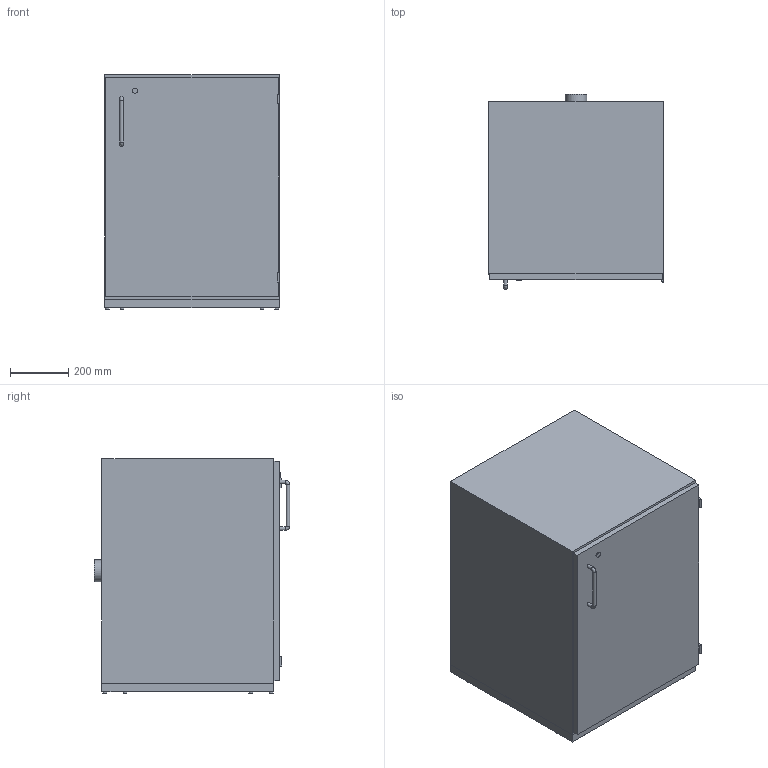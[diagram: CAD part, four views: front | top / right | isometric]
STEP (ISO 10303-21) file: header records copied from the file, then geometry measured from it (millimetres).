
FILE_DESCRIPTION(/* description */ ('Unknown'),/* implementation_level */ '2;1');
FILE_NAME(/* name */ 'ACID B pro S_D00108913',/* time_stamp */ '2021-07-27T07:41:33+02:00',/* author */ ('Unknown'),/* organization */ ('Unknown'),/* preprocessor_version */ 'ST-DEVELOPER v16.7',/* originating_system */ 'Solid Edge',/* authorisation */ 'Unknown');
FILE_SCHEMA (('AUTOMOTIVE_DESIGN {1 0 10303 214 3 1 1}'));
Length unit declared in the file: millimetre
Products named in the file (1): ACID B pro S_D00108913
Bounding box: 600 x 670 x 805 mm (x, y, z)
Volume: 282507645.3 mm3; surface area: 2747052.8 mm2
Topology: 1 solids, 1 shells, 57 faces, 126 edges, 83 vertices
Faces by surface type: plane 40, cylinder 15, torus 2
Full cylindrical faces by diameter (mm): 12 x3, 13 x8, 18 x1, 75 x1
Entity records: 1909 total; most frequent: DIRECTION 256, CARTESIAN_POINT 250, ORIENTED_EDGE 220, EDGE_CURVE 110, AXIS2_PLACEMENT_3D 88, EDGE_LOOP 86, FACE_BOUND 86, VERTEX_POINT 82
